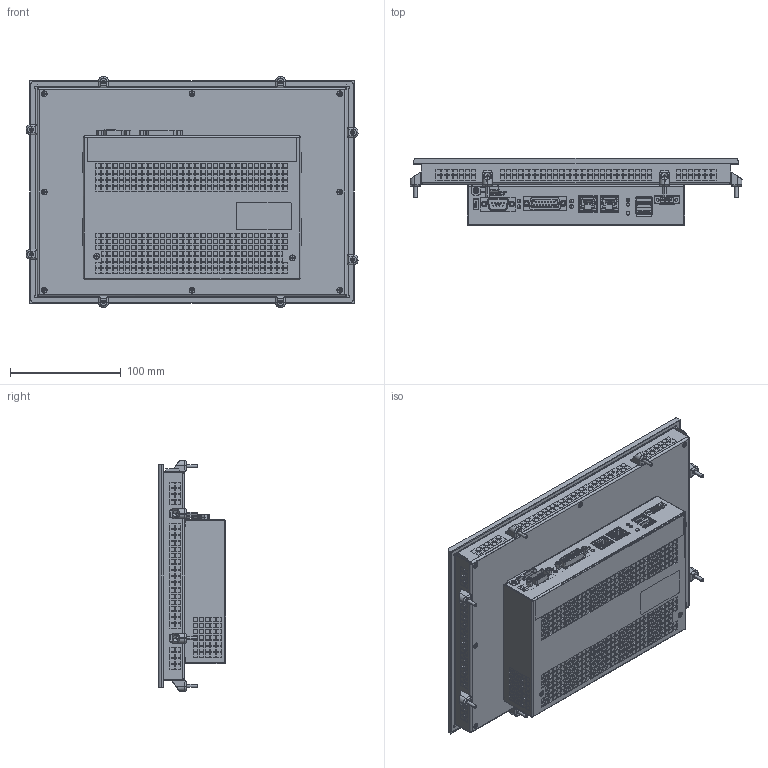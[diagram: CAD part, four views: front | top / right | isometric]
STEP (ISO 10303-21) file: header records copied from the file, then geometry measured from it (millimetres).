
FILE_DESCRIPTION (( 'STEP AP214' ), '1' );
FILE_NAME ('C6S14_101W_CAP_UPS_DB15.STEP', '2019-07-29T12:17:53', ( '' ), ( '' ), 'SwSTEP 2.0', 'SolidWorks 2018', '' );
FILE_SCHEMA (( 'AUTOMOTIVE_DESIGN' ));
Length unit declared in the file: millimetre
Products named in the file (5): DB15_Male_pin; C6S14_101W_CAP_UPS_1; C6S14_101W_CAP; C6S14_101W_CAP_UPS_DB15; C6S14_101W_CAP_ASM
Assembly tree (4 placements, depth 3):
  C6S14_101W_CAP_UPS_DB15
    C6S14_101W_CAP_ASM
    C6S14_101W_CAP
      C6S14_101W_CAP_UPS_1
      DB15_Male_pin
Bounding box: 300 x 61.1 x 208.5 mm (x, y, z)
Surface area: 390414.6 mm2
Topology: 1 solids, 5186 shells, 5471 faces, 30475 edges, 30195 vertices
Faces by surface type: plane 4282, cylinder 795, cone 206, bspline 126, torus 42, sphere 20
Entity records: 345188 total; most frequent: CARTESIAN_POINT 125778, DIRECTION 36521, ORIENTED_EDGE 31064, EDGE_CURVE 30439, VERTEX_POINT 30178, LINE 22003, VECTOR 22003, AXIS2_PLACEMENT_3D 7259
